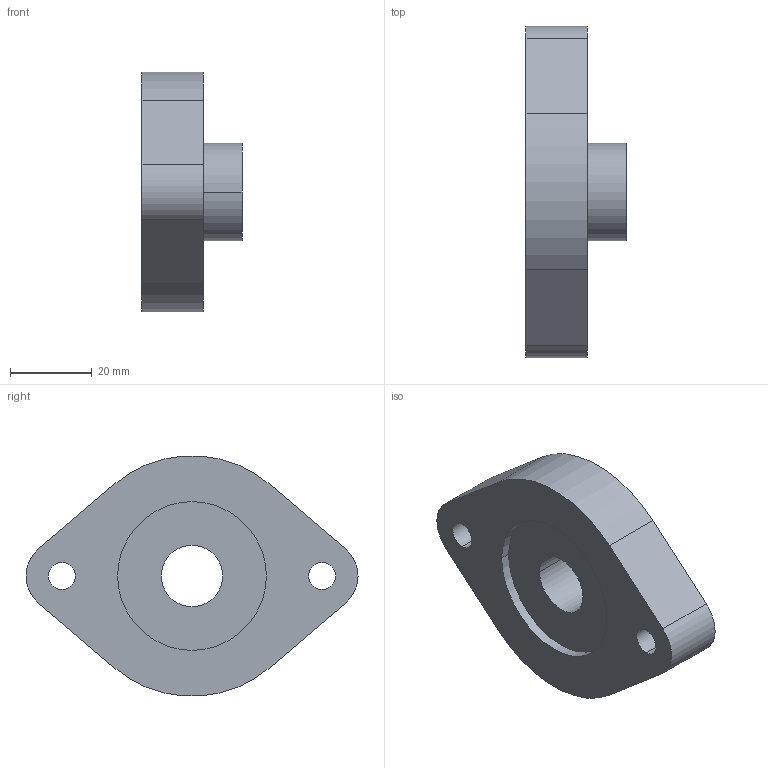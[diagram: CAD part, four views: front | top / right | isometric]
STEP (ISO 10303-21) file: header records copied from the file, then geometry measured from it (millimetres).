
FILE_DESCRIPTION(('SolidDesigner STEP Export'),'2;1');
FILE_NAME('Flanschlager_FLCTEY_15.stp','2002-07-15T16:22:47',(''),(''),'SolidDesigner STEP processor Version: 9.0 (March 2001)for AP214(DIS)for AP203(Solid Model)','CoCreate SolidDesigner: 11.00 12-Dec-2001(C) CoCreate Software GmbH','');
FILE_SCHEMA(('AUTOMOTIVE_DESIGN {1 2 10303 214 0 1 1 1}'));
Length unit declared in the file: millimetre
Products named in the file (1): Flanschlager_FLCTEY_15
Bounding box: 24.4 x 81 x 58.52 mm (x, y, z)
Volume: 44665.9 mm3; surface area: 11674.5 mm2
Topology: 1 solids, 1 shells, 22 faces, 54 edges, 36 vertices
Faces by surface type: cylinder 14, plane 8
Entity records: 625 total; most frequent: ORIENTED_EDGE 108, CARTESIAN_POINT 98, DIRECTION 98, EDGE_CURVE 54, AXIS2_PLACEMENT_3D 36, VERTEX_POINT 36, EDGE_LOOP 30, VECTOR 26
